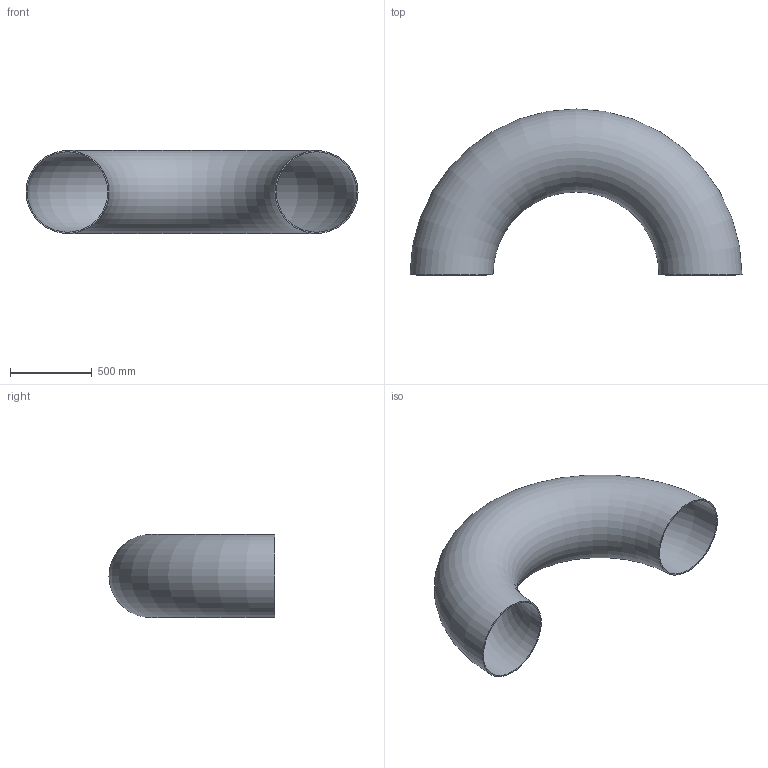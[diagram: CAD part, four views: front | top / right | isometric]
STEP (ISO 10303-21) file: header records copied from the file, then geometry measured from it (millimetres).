
FILE_DESCRIPTION(/* description */ (''),/* implementation_level */ '2;1');
FILE_NAME(/* name */ 'C:\Users\D\Documents\Inventor\HP\JIS\配管\エルボ ロング 180°\SGP\Elbow180-long-500A-SGP.stp',/* time_stamp */ '2022-06-14T14:51:13+09:00',/* author */ ('D'),/* organization */ (''),/* preprocessor_version */ 'ST-DEVELOPER v18',/* originating_system */ 'Autodesk Inventor 2020',/* authorisation */ '');
FILE_SCHEMA (('AUTOMOTIVE_DESIGN { 1 0 10303 214 3 1 1 }'));
Length unit declared in the file: millimetre
Products named in the file (1): Elbow-long-90-15A-SGP
Bounding box: 2032 x 1016 x 508 mm (x, y, z)
Volume: 29712463.6 mm3; surface area: 7546966.2 mm2
Topology: 1 solids, 1 shells, 4 faces, 10 edges, 8 vertices
Faces by surface type: torus 2, plane 2
Entity records: 181 total; most frequent: DIRECTION 30, CARTESIAN_POINT 23, ORIENTED_EDGE 20, AXIS2_PLACEMENT_3D 15, CIRCLE 10, EDGE_CURVE 10, VERTEX_POINT 8, EDGE_LOOP 6
